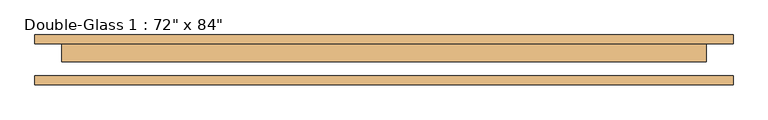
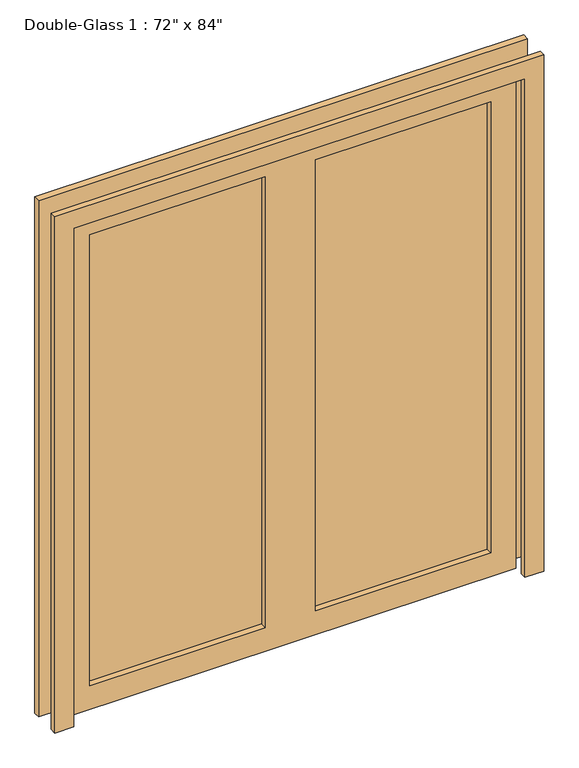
"""IFC4 building model written with IfcOpenShell, lengths in millimetres: door geometry."""

from ifc_helpers import new_model, si_unit, frame, origin, place, context, project, spatial, polyline, outline, extrude, source, transform, mapped, element, save


def door_9b66a9c8(model_context):
    return source(origin(), model_context, "Body", "SweptSolid", [
        extrude(outline(polyline([(0.0, 990.6), (2209.8, 990.6), (2209.8, -990.6), (0.0, -990.6), (0.0, -914.4), (2133.6, -914.4), (2133.6, 914.4), (0.0, 914.4), (0.0, 990.6)])), frame((0.0, -68.01875, 0.0), z_axis=(0.0, 1.0, 0.0), x_axis=(0.0, 0.0, 1.0)), (0.0, 0.0, 1.0), 25.4),
        extrude(outline(polyline([(2133.6, 914.4), (0.0, 914.4), (0.0, 990.6), (2209.8, 990.6), (2209.8, -990.6), (0.0, -990.6), (0.0, -914.4), (2133.6, -914.4), (2133.6, 914.4)])), frame((0.0, 47.38125, 0.0), z_axis=(0.0, 1.0, 0.0), x_axis=(0.0, 0.0, 1.0)), (0.0, 0.0, 1.0), 25.4),
        extrude(outline(polyline([(812.8, 21.98125), (101.6, 21.98125), (101.6, 29.125), (812.8, 29.125), (812.8, 21.98125)])), frame((0.0, 0.0, 101.6), z_axis=(0.0, 0.0, 1.0), x_axis=(1.0, 0.0, 0.0)), (0.0, 0.0, 1.0), 1930.4),
        extrude(outline(polyline([(-101.6, 21.98125), (-812.8, 21.98125), (-812.8, 29.125), (-101.6, 29.125), (-101.6, 21.98125)])), frame((0.0, 0.0, 101.6), z_axis=(0.0, 0.0, 1.0), x_axis=(1.0, 0.0, 0.0)), (0.0, 0.0, 1.0), 1930.4),
        extrude(outline(polyline([(2133.6, 914.4), (2133.6, -914.4), (0.0, -914.4), (0.0, 914.4), (2133.6, 914.4)]), holes=[polyline([(2032.0, -101.6), (101.6, -101.6), (101.6, -812.8), (2032.0, -812.8), (2032.0, -101.6)]), polyline([(2032.0, 812.8), (101.6, 812.8), (101.6, 101.6), (2032.0, 101.6), (2032.0, 812.8)])]), frame((0.0, -3.41875, 0.0), z_axis=(0.0, 1.0, 0.0), x_axis=(0.0, 0.0, 1.0)), (0.0, 0.0, 1.0), 50.8),
    ])


if __name__ == "__main__":
    model = new_model("IFC4")
    model_context = context("Model", 3, world=origin())
    ifc_project = project(units=[si_unit("LENGTHUNIT", "METRE", prefix="MILLI")], contexts=[model_context])
    site = spatial("IfcSite", under=ifc_project)
    building = spatial("IfcBuilding", under=site)
    placement = place(None, origin())
    door_shape = door_9b66a9c8(model_context)
    element("IfcDoor", 1, ObjectType="Double-Glass 1 : 72\" x 84\"", at=placement, inside=building, context=model_context, shape_type="MappedRepresentation", body=[
        mapped(door_shape, transform((0.0, 0.0, 0.0), x_axis=(1.0, 0.0, 0.0), y_axis=(0.0, 1.0, 0.0), z_axis=(0.0, 0.0, 1.0))),
    ])
    save(model, "model.ifc")
